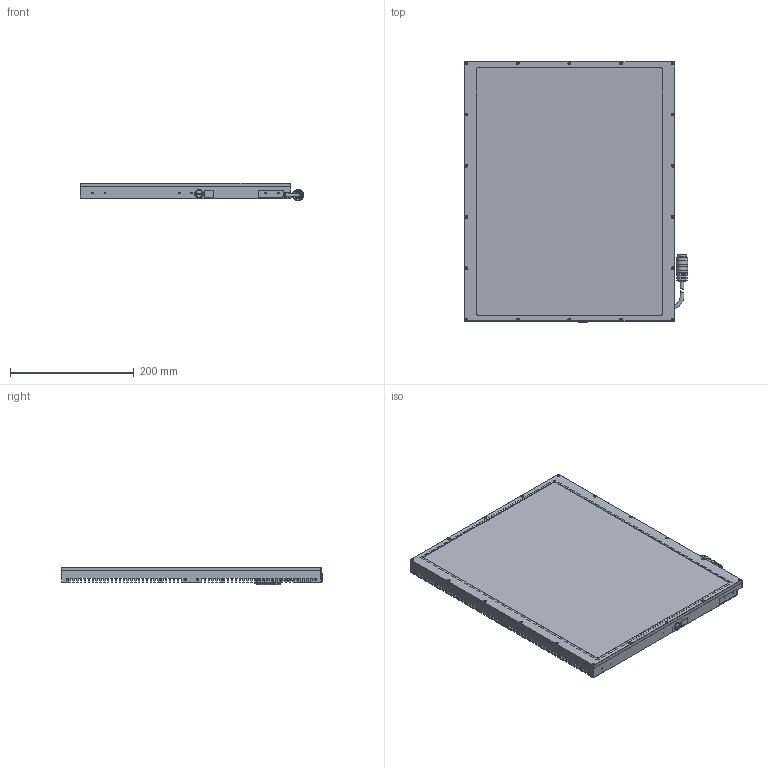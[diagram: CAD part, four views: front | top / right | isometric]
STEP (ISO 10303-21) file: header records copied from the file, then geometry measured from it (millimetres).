
FILE_DESCRIPTION(/* description */ (''),/* implementation_level */ '2;1');
FILE_NAME(/* name */ 'LG4030-BK-V02_MO',/* time_stamp */ '2022-01-19T15:05:51+01:00',/* author */ (''),/* organization */ ('iiM AG'),/* preprocessor_version */ 'ST-DEVELOPER v16.7',/* originating_system */ 'DEX',/* authorisation */ $);
FILE_SCHEMA (('CONFIG_CONTROL_DESIGN'));
Products named in the file (1): LG4030-BK-V02_MO
Bounding box: 361.29 x 421.95 x 28.79 mm (x, y, z)
Volume: 1516526.5 mm3; surface area: 904171.2 mm2
Topology: 3 solids, 22 shells, 1735 faces, 4765 edges, 3096 vertices
Faces by surface type: plane 832, cylinder 592, cone 258, torus 22, bspline 18, sphere 13
Full cylindrical faces by diameter (mm): 1 x12, 1.567 x36, 2 x18, 2.1 x14, 2.11 x4, 2.459 x4, 2.6 x4, 3.8 x18, 4.134 x62, 5.2 x1, 6 x2, 6.2 x1, 8 x1, 9 x1, 11 x3, 11.89 x1, 14 x1, 15 x1, 16 x1, 17.5 x1, 18.5 x3, 18.6 x2, 49.5 x1, 50 x1, 51 x1
Entity records: 69252 total; most frequent: CARTESIAN_POINT 16756, ORIENTED_EDGE 8202, DIRECTION 7915, EDGE_CURVE 4101, VERTEX_POINT 2878, AXIS2_PLACEMENT_3D 2833, LINE 2249, VECTOR 2249
